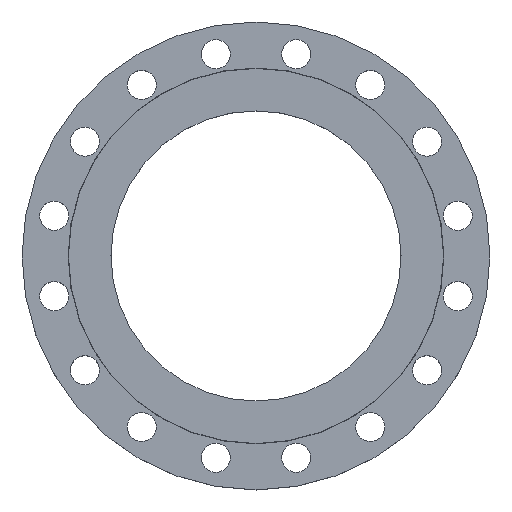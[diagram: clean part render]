
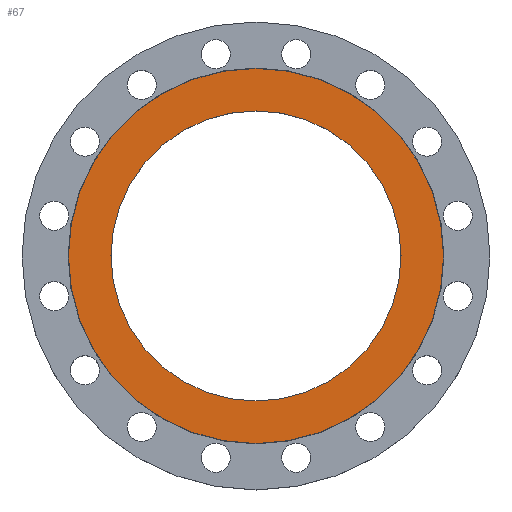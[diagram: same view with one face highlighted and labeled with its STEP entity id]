
A CAD part, top view. The second image highlights one B-rep face of the part: STEP entity #67.
In plain terms, the highlighted planar face has unit normal (0, 0, 1).
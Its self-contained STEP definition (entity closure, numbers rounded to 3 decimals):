
#34 = EDGE_CURVE ( 'NONE', #1059, #1470, #809, .T. ) ;
#47 = AXIS2_PLACEMENT_3D ( 'NONE', #555, #554, #551 ) ;
#52 = CIRCLE ( 'NONE', #47, 179.75 ) ;
#67 = ADVANCED_FACE ( 'NONE', ( #839, #838 ), #837, .T. ) ;
#76 = EDGE_CURVE ( 'NONE', #1469, #1120, #755, .T. ) ;
#80 = CARTESIAN_POINT ( 'NONE',  ( -232.5, 0., 0. ) ) ;
#81 = CARTESIAN_POINT ( 'NONE',  ( -179.75, 0., 0. ) ) ;
#375 = CARTESIAN_POINT ( 'NONE',  ( 179.75, 0., 0. ) ) ;
#410 = CARTESIAN_POINT ( 'NONE',  ( 232.5, 0., 0. ) ) ;
#507 = EDGE_CURVE ( 'NONE', #1120, #1469, #52, .T. ) ;
#534 = EDGE_CURVE ( 'NONE', #1470, #1059, #999, .T. ) ;
#536 = DIRECTION ( 'NONE',  ( -1., 0., 0. ) ) ;
#537 = DIRECTION ( 'NONE',  ( 0., 0., -1. ) ) ;
#539 = CARTESIAN_POINT ( 'NONE',  ( 0., 0., 0. ) ) ;
#551 = DIRECTION ( 'NONE',  ( -1., 0., 0. ) ) ;
#554 = DIRECTION ( 'NONE',  ( 0., 0., -1. ) ) ;
#555 = CARTESIAN_POINT ( 'NONE',  ( 0., 0., 0. ) ) ;
#601 = AXIS2_PLACEMENT_3D ( 'NONE', #836, #835, #834 ) ;
#755 = CIRCLE ( 'NONE', #758, 179.75 ) ;
#758 = AXIS2_PLACEMENT_3D ( 'NONE', #797, #796, #794 ) ;
#794 = DIRECTION ( 'NONE',  ( -1., 0., 0. ) ) ;
#796 = DIRECTION ( 'NONE',  ( 0., 0., -1. ) ) ;
#797 = CARTESIAN_POINT ( 'NONE',  ( 0., 0., 0. ) ) ;
#809 = CIRCLE ( 'NONE', #812, 232.5 ) ;
#812 = AXIS2_PLACEMENT_3D ( 'NONE', #880, #879, #877 ) ;
#834 = DIRECTION ( 'NONE',  ( 1., 0., 0. ) ) ;
#835 = DIRECTION ( 'NONE',  ( 0., 0., 1. ) ) ;
#836 = CARTESIAN_POINT ( 'NONE',  ( 0., 0., 0. ) ) ;
#837 = PLANE ( 'NONE',  #601 ) ;
#838 = FACE_OUTER_BOUND ( 'NONE', #955, .T. ) ;
#839 = FACE_BOUND ( 'NONE', #1419, .T. ) ;
#877 = DIRECTION ( 'NONE',  ( -1., 0., 0. ) ) ;
#879 = DIRECTION ( 'NONE',  ( 0., 0., -1. ) ) ;
#880 = CARTESIAN_POINT ( 'NONE',  ( 0., 0., 0. ) ) ;
#955 = EDGE_LOOP ( 'NONE', ( #1310, #1311 ) ) ;
#999 = CIRCLE ( 'NONE', #1011, 232.5 ) ;
#1011 = AXIS2_PLACEMENT_3D ( 'NONE', #539, #537, #536 ) ;
#1059 = VERTEX_POINT ( 'NONE', #410 ) ;
#1120 = VERTEX_POINT ( 'NONE', #375 ) ;
#1308 = ORIENTED_EDGE ( 'NONE', *, *, #76, .T. ) ;
#1309 = ORIENTED_EDGE ( 'NONE', *, *, #507, .T. ) ;
#1310 = ORIENTED_EDGE ( 'NONE', *, *, #534, .F. ) ;
#1311 = ORIENTED_EDGE ( 'NONE', *, *, #34, .F. ) ;
#1419 = EDGE_LOOP ( 'NONE', ( #1308, #1309 ) ) ;
#1469 = VERTEX_POINT ( 'NONE', #81 ) ;
#1470 = VERTEX_POINT ( 'NONE', #80 ) ;
